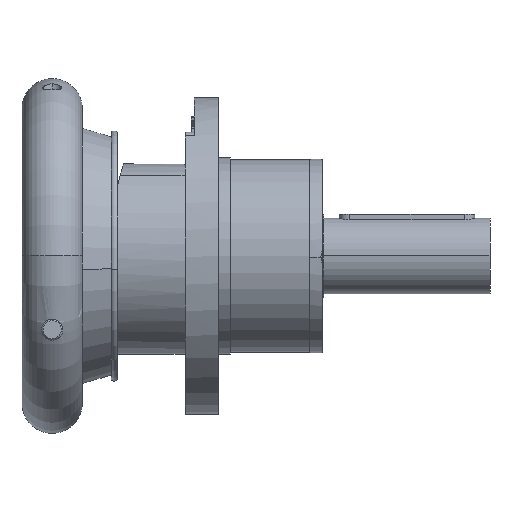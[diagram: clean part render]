
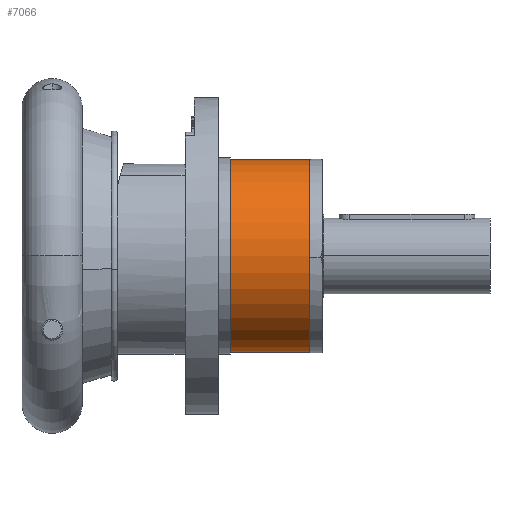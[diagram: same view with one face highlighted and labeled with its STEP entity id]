
A CAD part, top view. The second image highlights one B-rep face of the part: STEP entity #7066.
In plain terms, the highlighted cylindrical face has radius 64 mm (diameter 128 mm), a partial arc.
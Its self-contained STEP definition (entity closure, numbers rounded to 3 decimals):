
#7037 = EDGE_CURVE ( 'NONE', #7058, #7042, #29711, .T. ) ;
#7041 = EDGE_CURVE ( 'NONE', #7042, #7051, #29702, .T. ) ;
#7042 = VERTEX_POINT ( 'NONE', #29697 ) ;
#7048 = ORIENTED_EDGE ( 'NONE', *, *, #7037, .F. ) ;
#7050 = EDGE_CURVE ( 'NONE', #7056, #7051, #29747, .T. ) ;
#7051 = VERTEX_POINT ( 'NONE', #29743 ) ;
#7052 = ORIENTED_EDGE ( 'NONE', *, *, #7050, .T. ) ;
#7053 = ORIENTED_EDGE ( 'NONE', *, *, #7057, .T. ) ;
#7056 = VERTEX_POINT ( 'NONE', #29740 ) ;
#7057 = EDGE_CURVE ( 'NONE', #7058, #7056, #29739, .T. ) ;
#7058 = VERTEX_POINT ( 'NONE', #29734 ) ;
#7065 = EDGE_LOOP ( 'NONE', ( #7053, #7052, #7140, #7048 ) ) ;
#7066 = ADVANCED_FACE ( 'NONE', ( #29785 ), #29780, .T. ) ;
#7140 = ORIENTED_EDGE ( 'NONE', *, *, #7041, .F. ) ;
#29697 = CARTESIAN_POINT ( 'NONE',  ( -52.5, 0., 64. ) ) ;
#29698 = DIRECTION ( 'NONE',  ( 0., 0., 1. ) ) ;
#29699 = DIRECTION ( 'NONE',  ( -1., 0., 0. ) ) ;
#29700 = CARTESIAN_POINT ( 'NONE',  ( -52.5, 0., 0. ) ) ;
#29701 = AXIS2_PLACEMENT_3D ( 'NONE', #29700, #29699, #29698 ) ;
#29702 = CIRCLE ( 'NONE', #29701, 64. ) ;
#29708 = DIRECTION ( 'NONE',  ( -1., 0., 0. ) ) ;
#29709 = VECTOR ( 'NONE', #29708, 1000. ) ;
#29710 = CARTESIAN_POINT ( 'NONE',  ( -230., 0., 64. ) ) ;
#29711 = LINE ( 'NONE', #29710, #29709 ) ;
#29734 = CARTESIAN_POINT ( 'NONE',  ( 0., 0., 64. ) ) ;
#29735 = DIRECTION ( 'NONE',  ( 0., 0., 1. ) ) ;
#29736 = DIRECTION ( 'NONE',  ( -1., 0., 0. ) ) ;
#29737 = CARTESIAN_POINT ( 'NONE',  ( 0., 0., 0. ) ) ;
#29738 = AXIS2_PLACEMENT_3D ( 'NONE', #29737, #29736, #29735 ) ;
#29739 = CIRCLE ( 'NONE', #29738, 64. ) ;
#29740 = CARTESIAN_POINT ( 'NONE',  ( 0., 0., -64. ) ) ;
#29743 = CARTESIAN_POINT ( 'NONE',  ( -52.5, 0., -64. ) ) ;
#29744 = DIRECTION ( 'NONE',  ( -1., 0., 0. ) ) ;
#29745 = VECTOR ( 'NONE', #29744, 1000. ) ;
#29746 = CARTESIAN_POINT ( 'NONE',  ( -230., 0., -64. ) ) ;
#29747 = LINE ( 'NONE', #29746, #29745 ) ;
#29776 = DIRECTION ( 'NONE',  ( 0., 0., 1. ) ) ;
#29777 = DIRECTION ( 'NONE',  ( -1., 0., 0. ) ) ;
#29778 = CARTESIAN_POINT ( 'NONE',  ( -230., 0., 0. ) ) ;
#29779 = AXIS2_PLACEMENT_3D ( 'NONE', #29778, #29777, #29776 ) ;
#29780 = CYLINDRICAL_SURFACE ( 'NONE', #29779, 64. ) ;
#29785 = FACE_OUTER_BOUND ( 'NONE', #7065, .T. ) ;
